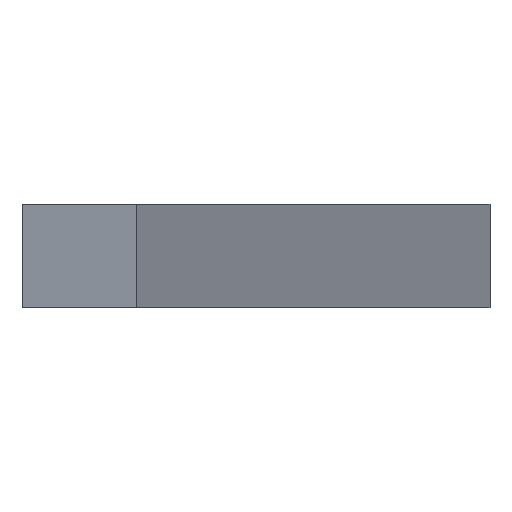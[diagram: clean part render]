
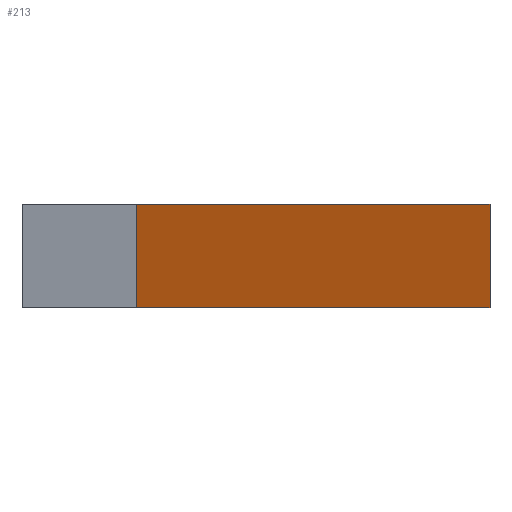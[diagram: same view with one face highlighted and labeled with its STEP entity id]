
A CAD part, front view. The second image highlights one B-rep face of the part: STEP entity #213.
In plain terms, the highlighted planar face has unit normal (0.968, -0.252, 0).
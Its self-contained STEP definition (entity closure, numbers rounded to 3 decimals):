
#44 = PLANE('',#45);
#45 = AXIS2_PLACEMENT_3D('',#46,#47,#48);
#46 = CARTESIAN_POINT('',(-186.13,-182.923,45.));
#47 = DIRECTION('',(-0.252,-0.968,0.));
#48 = DIRECTION('',(-0.968,0.252,0.));
#72 = PLANE('',#73);
#73 = AXIS2_PLACEMENT_3D('',#74,#75,#76);
#74 = CARTESIAN_POINT('',(-178.,-135.913,52.));
#75 = DIRECTION('',(-0.,-0.,-1.));
#76 = DIRECTION('',(-1.,0.,0.));
#100 = PLANE('',#101);
#101 = AXIS2_PLACEMENT_3D('',#102,#103,#104);
#102 = CARTESIAN_POINT('',(-169.87,-88.904,45.));
#103 = DIRECTION('',(0.252,0.968,-0.));
#104 = DIRECTION('',(0.968,-0.252,0.));
#126 = PLANE('',#127);
#127 = AXIS2_PLACEMENT_3D('',#128,#129,#130);
#128 = CARTESIAN_POINT('',(-178.,-135.913,45.));
#129 = DIRECTION('',(-0.,-0.,-1.));
#130 = DIRECTION('',(-1.,0.,0.));
#143 = VERTEX_POINT('',#144);
#144 = CARTESIAN_POINT('',(-162.13,-90.923,52.));
#165 = EDGE_CURVE('',#166,#143,#168,.T.);
#166 = VERTEX_POINT('',#167);
#167 = CARTESIAN_POINT('',(-162.13,-90.923,45.));
#168 = SURFACE_CURVE('',#169,(#173,#180),.PCURVE_S1.);
#169 = LINE('',#170,#171);
#170 = CARTESIAN_POINT('',(-162.13,-90.923,45.));
#171 = VECTOR('',#172,1.);
#172 = DIRECTION('',(0.,0.,1.));
#173 = PCURVE('',#100,#174);
#174 = DEFINITIONAL_REPRESENTATION('',(#175),#179);
#175 = LINE('',#176,#177);
#176 = CARTESIAN_POINT('',(8.,0.));
#177 = VECTOR('',#178,1.);
#178 = DIRECTION('',(0.,-1.));
#179 = ( GEOMETRIC_REPRESENTATION_CONTEXT(2) 
PARAMETRIC_REPRESENTATION_CONTEXT() REPRESENTATION_CONTEXT('2D SPACE',''
  ) );
#180 = PCURVE('',#181,#186);
#181 = PLANE('',#182);
#182 = AXIS2_PLACEMENT_3D('',#183,#184,#185);
#183 = CARTESIAN_POINT('',(-162.13,-90.923,45.));
#184 = DIRECTION('',(0.968,-0.252,0.));
#185 = DIRECTION('',(-0.252,-0.968,0.));
#186 = DEFINITIONAL_REPRESENTATION('',(#187),#191);
#187 = LINE('',#188,#189);
#188 = CARTESIAN_POINT('',(0.,0.));
#189 = VECTOR('',#190,1.);
#190 = DIRECTION('',(0.,-1.));
#191 = ( GEOMETRIC_REPRESENTATION_CONTEXT(2) 
PARAMETRIC_REPRESENTATION_CONTEXT() REPRESENTATION_CONTEXT('2D SPACE',''
  ) );
#213 = ADVANCED_FACE('',(#214),#181,.T.);
#214 = FACE_BOUND('',#215,.T.);
#215 = EDGE_LOOP('',(#216,#217,#240,#263));
#216 = ORIENTED_EDGE('',*,*,#165,.T.);
#217 = ORIENTED_EDGE('',*,*,#218,.T.);
#218 = EDGE_CURVE('',#143,#219,#221,.T.);
#219 = VERTEX_POINT('',#220);
#220 = CARTESIAN_POINT('',(-186.13,-182.923,52.));
#221 = SURFACE_CURVE('',#222,(#226,#233),.PCURVE_S1.);
#222 = LINE('',#223,#224);
#223 = CARTESIAN_POINT('',(-162.13,-90.923,52.));
#224 = VECTOR('',#225,1.);
#225 = DIRECTION('',(-0.252,-0.968,0.));
#226 = PCURVE('',#181,#227);
#227 = DEFINITIONAL_REPRESENTATION('',(#228),#232);
#228 = LINE('',#229,#230);
#229 = CARTESIAN_POINT('',(0.,-7.));
#230 = VECTOR('',#231,1.);
#231 = DIRECTION('',(1.,0.));
#232 = ( GEOMETRIC_REPRESENTATION_CONTEXT(2) 
PARAMETRIC_REPRESENTATION_CONTEXT() REPRESENTATION_CONTEXT('2D SPACE',''
  ) );
#233 = PCURVE('',#72,#234);
#234 = DEFINITIONAL_REPRESENTATION('',(#235),#239);
#235 = LINE('',#236,#237);
#236 = CARTESIAN_POINT('',(-15.87,44.99));
#237 = VECTOR('',#238,1.);
#238 = DIRECTION('',(0.252,-0.968));
#239 = ( GEOMETRIC_REPRESENTATION_CONTEXT(2) 
PARAMETRIC_REPRESENTATION_CONTEXT() REPRESENTATION_CONTEXT('2D SPACE',''
  ) );
#240 = ORIENTED_EDGE('',*,*,#241,.F.);
#241 = EDGE_CURVE('',#242,#219,#244,.T.);
#242 = VERTEX_POINT('',#243);
#243 = CARTESIAN_POINT('',(-186.13,-182.923,45.));
#244 = SURFACE_CURVE('',#245,(#249,#256),.PCURVE_S1.);
#245 = LINE('',#246,#247);
#246 = CARTESIAN_POINT('',(-186.13,-182.923,45.));
#247 = VECTOR('',#248,1.);
#248 = DIRECTION('',(0.,0.,1.));
#249 = PCURVE('',#181,#250);
#250 = DEFINITIONAL_REPRESENTATION('',(#251),#255);
#251 = LINE('',#252,#253);
#252 = CARTESIAN_POINT('',(95.079,0.));
#253 = VECTOR('',#254,1.);
#254 = DIRECTION('',(0.,-1.));
#255 = ( GEOMETRIC_REPRESENTATION_CONTEXT(2) 
PARAMETRIC_REPRESENTATION_CONTEXT() REPRESENTATION_CONTEXT('2D SPACE',''
  ) );
#256 = PCURVE('',#44,#257);
#257 = DEFINITIONAL_REPRESENTATION('',(#258),#262);
#258 = LINE('',#259,#260);
#259 = CARTESIAN_POINT('',(0.,0.));
#260 = VECTOR('',#261,1.);
#261 = DIRECTION('',(0.,-1.));
#262 = ( GEOMETRIC_REPRESENTATION_CONTEXT(2) 
PARAMETRIC_REPRESENTATION_CONTEXT() REPRESENTATION_CONTEXT('2D SPACE',''
  ) );
#263 = ORIENTED_EDGE('',*,*,#264,.F.);
#264 = EDGE_CURVE('',#166,#242,#265,.T.);
#265 = SURFACE_CURVE('',#266,(#270,#277),.PCURVE_S1.);
#266 = LINE('',#267,#268);
#267 = CARTESIAN_POINT('',(-162.13,-90.923,45.));
#268 = VECTOR('',#269,1.);
#269 = DIRECTION('',(-0.252,-0.968,0.));
#270 = PCURVE('',#181,#271);
#271 = DEFINITIONAL_REPRESENTATION('',(#272),#276);
#272 = LINE('',#273,#274);
#273 = CARTESIAN_POINT('',(0.,0.));
#274 = VECTOR('',#275,1.);
#275 = DIRECTION('',(1.,0.));
#276 = ( GEOMETRIC_REPRESENTATION_CONTEXT(2) 
PARAMETRIC_REPRESENTATION_CONTEXT() REPRESENTATION_CONTEXT('2D SPACE',''
  ) );
#277 = PCURVE('',#126,#278);
#278 = DEFINITIONAL_REPRESENTATION('',(#279),#283);
#279 = LINE('',#280,#281);
#280 = CARTESIAN_POINT('',(-15.87,44.99));
#281 = VECTOR('',#282,1.);
#282 = DIRECTION('',(0.252,-0.968));
#283 = ( GEOMETRIC_REPRESENTATION_CONTEXT(2) 
PARAMETRIC_REPRESENTATION_CONTEXT() REPRESENTATION_CONTEXT('2D SPACE',''
  ) );
